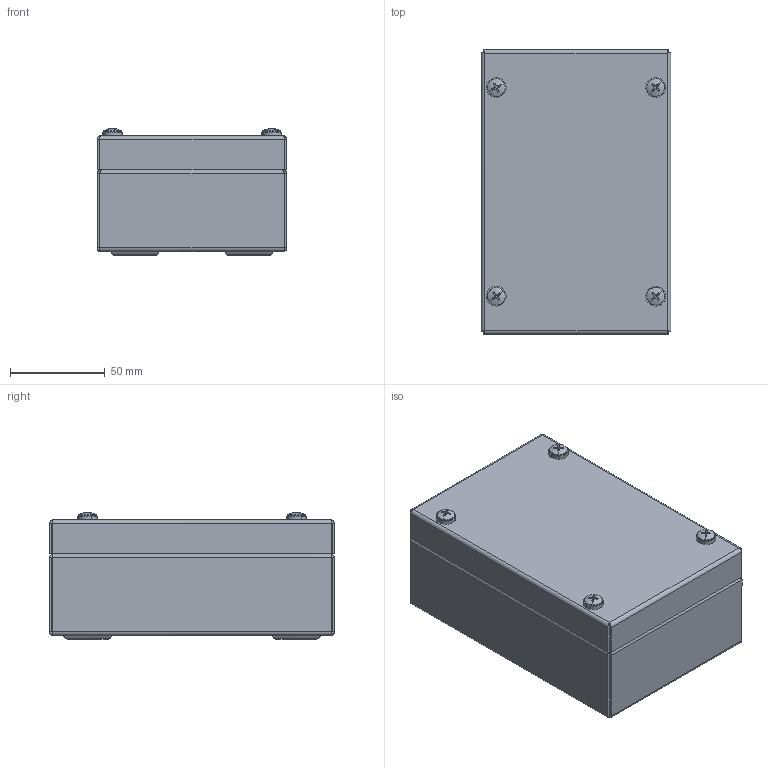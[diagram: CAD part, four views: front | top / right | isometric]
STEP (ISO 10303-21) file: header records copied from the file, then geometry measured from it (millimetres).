
FILE_DESCRIPTION (( 'STEP AP203' ), '1' );
FILE_NAME ('SS JB-150 x 100 x 61-ASSEMBLY.STEP', '2020-03-13T10:01:15', ( '' ), ( '' ), 'SwSTEP 2.0', 'SolidWorks 2018', '' );
FILE_SCHEMA (( 'CONFIG_CONTROL_DESIGN' ));
Length unit declared in the file: millimetre
Products named in the file (8): Dinral Mounting Channel-100; Gasket-150 x 100 x 61; M5 BLIND NUTSERT; SS JB-150 x 100 x 61-LID; SS JB-150 x 100 x 61-BASE_100 x 100 x 61; M5X33 LID SCREW; PLASTIC INSERT FOR FABRICATED ENCLOSURE; SS JB-150 x 100 x 61-ASSEMBLY
Assembly tree (17 placements, depth 2):
  SS JB-150 x 100 x 61-ASSEMBLY
    SS JB-150 x 100 x 61-BASE_100 x 100 x 61
    Dinral Mounting Channel-100  x2
    SS JB-150 x 100 x 61-LID
    Gasket-150 x 100 x 61
    M5 BLIND NUTSERT  x4
    M5X33 LID SCREW  x4
    PLASTIC INSERT FOR FABRICATED ENCLOSURE  x4
Bounding box: 100 x 150 x 66.81 mm (x, y, z)
Volume: 127740.3 mm3; surface area: 169099 mm2
Topology: 17 solids, 17 shells, 705 faces, 1666 edges, 1028 vertices
Faces by surface type: cylinder 286, plane 275, cone 104, bspline 32, sphere 8
Entity records: 14920 total; most frequent: CARTESIAN_POINT 4859, ORIENTED_EDGE 1896, DIRECTION 1733, EDGE_CURVE 948, AXIS2_PLACEMENT_3D 581, VECTOR 571, LINE 571, VERTEX_POINT 570
